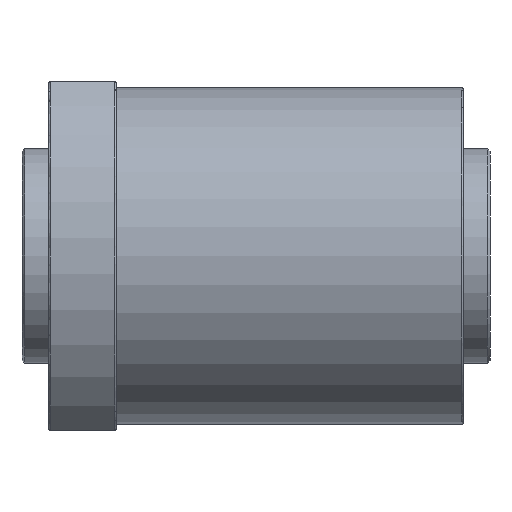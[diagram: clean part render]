
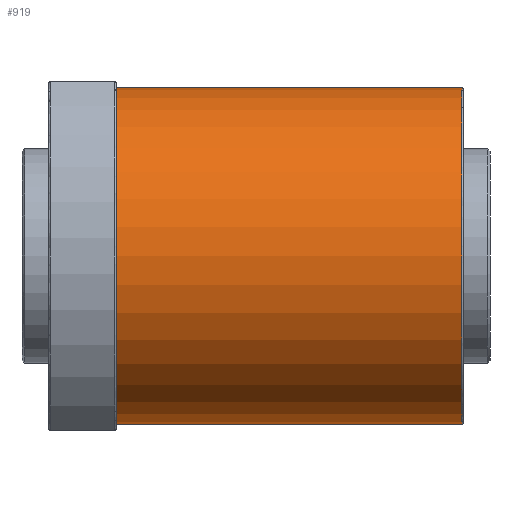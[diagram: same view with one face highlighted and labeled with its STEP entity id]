
A CAD part, front view. The second image highlights one B-rep face of the part: STEP entity #919.
In plain terms, the highlighted cylindrical face has radius 62.5 mm (diameter 125 mm), a partial arc.
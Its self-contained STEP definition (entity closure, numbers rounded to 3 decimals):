
#105 = DIRECTION ( 'NONE',  ( 0., 0., 1. ) ) ;
#206 = CARTESIAN_POINT ( 'NONE',  ( 25., 0., -62.5 ) ) ;
#389 = LINE ( 'NONE', #7146, #6736 ) ;
#462 = VERTEX_POINT ( 'NONE', #206 ) ;
#675 = CARTESIAN_POINT ( 'NONE',  ( 153.5, 0., 0. ) ) ;
#903 = DIRECTION ( 'NONE',  ( -1., 0., 0. ) ) ;
#919 = ADVANCED_FACE ( 'NONE', ( #4447 ), #2453, .T. ) ;
#1044 = VECTOR ( 'NONE', #5342, 1000. ) ;
#1298 = CARTESIAN_POINT ( 'NONE',  ( 25., 0., 0. ) ) ;
#1324 = ORIENTED_EDGE ( 'NONE', *, *, #2358, .T. ) ;
#1389 = VERTEX_POINT ( 'NONE', #3124 ) ;
#1446 = ORIENTED_EDGE ( 'NONE', *, *, #4197, .F. ) ;
#1496 = DIRECTION ( 'NONE',  ( -1., 0., 0. ) ) ;
#2358 = EDGE_CURVE ( 'NONE', #1389, #4305, #389, .T. ) ;
#2453 = CYLINDRICAL_SURFACE ( 'NONE', #4293, 62.5 ) ;
#2890 = ORIENTED_EDGE ( 'NONE', *, *, #7051, .T. ) ;
#3124 = CARTESIAN_POINT ( 'NONE',  ( 153.5, 0., 62.5 ) ) ;
#3789 = EDGE_CURVE ( 'NONE', #4773, #1389, #6329, .T. ) ;
#3811 = CARTESIAN_POINT ( 'NONE',  ( 154., 0., 0. ) ) ;
#4050 = EDGE_LOOP ( 'NONE', ( #1446, #7948, #1324, #2890 ) ) ;
#4053 = CARTESIAN_POINT ( 'NONE',  ( 25., 0., 62.5 ) ) ;
#4197 = EDGE_CURVE ( 'NONE', #4773, #462, #4599, .T. ) ;
#4202 = CARTESIAN_POINT ( 'NONE',  ( 153.5, 0., -62.5 ) ) ;
#4293 = AXIS2_PLACEMENT_3D ( 'NONE', #3811, #1496, #6415 ) ;
#4305 = VERTEX_POINT ( 'NONE', #4053 ) ;
#4447 = FACE_OUTER_BOUND ( 'NONE', #4050, .T. ) ;
#4599 = LINE ( 'NONE', #7069, #1044 ) ;
#4773 = VERTEX_POINT ( 'NONE', #4202 ) ;
#5342 = DIRECTION ( 'NONE',  ( -1., 0., 0. ) ) ;
#5584 = DIRECTION ( 'NONE',  ( 1., 0., 0. ) ) ;
#5595 = AXIS2_PLACEMENT_3D ( 'NONE', #675, #7470, #105 ) ;
#6054 = DIRECTION ( 'NONE',  ( 0., 0., 1. ) ) ;
#6329 = CIRCLE ( 'NONE', #5595, 62.5 ) ;
#6415 = DIRECTION ( 'NONE',  ( 0., 0., 1. ) ) ;
#6685 = AXIS2_PLACEMENT_3D ( 'NONE', #1298, #5584, #6054 ) ;
#6736 = VECTOR ( 'NONE', #903, 1000. ) ;
#7051 = EDGE_CURVE ( 'NONE', #4305, #462, #7764, .T. ) ;
#7069 = CARTESIAN_POINT ( 'NONE',  ( 154., 0., -62.5 ) ) ;
#7146 = CARTESIAN_POINT ( 'NONE',  ( 154., 0., 62.5 ) ) ;
#7470 = DIRECTION ( 'NONE',  ( -1., 0., 0. ) ) ;
#7764 = CIRCLE ( 'NONE', #6685, 62.5 ) ;
#7948 = ORIENTED_EDGE ( 'NONE', *, *, #3789, .T. ) ;
